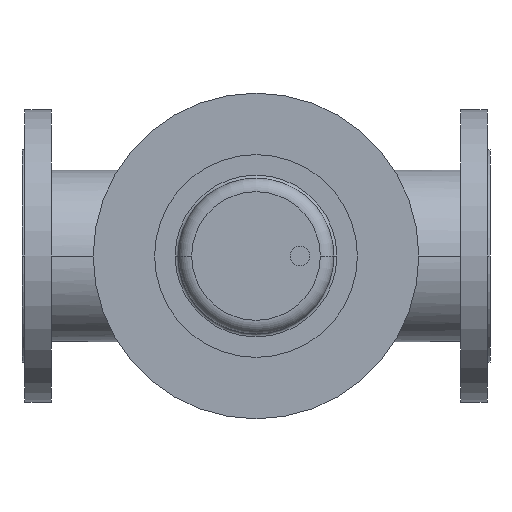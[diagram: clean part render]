
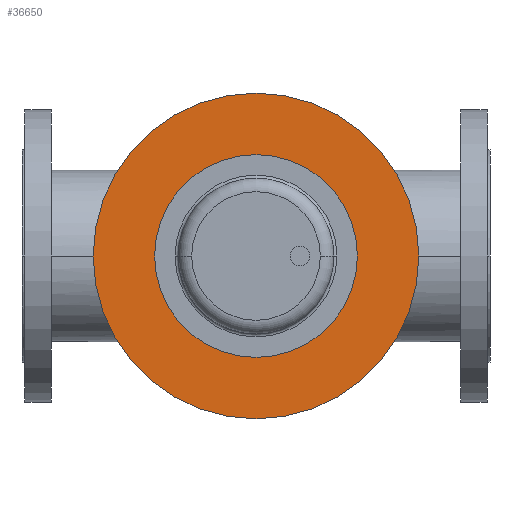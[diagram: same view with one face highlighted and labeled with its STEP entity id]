
A CAD part, front view. The second image highlights one B-rep face of the part: STEP entity #36650.
In plain terms, the highlighted planar face has unit normal (0, -1, 0).
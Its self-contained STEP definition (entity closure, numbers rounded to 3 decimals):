
#18430=CARTESIAN_POINT('',(240.,-497.52,0.));
#18440=DIRECTION('',(-0.,-1.,0.));
#18450=DIRECTION('',(1.,0.,0.));
#18460=AXIS2_PLACEMENT_3D('',#18430,#18440,#18450);
#18470=CYLINDRICAL_SURFACE('',#18460,167.);
#18540=CARTESIAN_POINT('',(407.,-505.02,0.));
#18550=VERTEX_POINT('',#18540);
#18560=CARTESIAN_POINT('',(240.,-497.52,0.));
#18570=DIRECTION('',(-0.,-1.,0.));
#18580=DIRECTION('',(1.,0.,0.));
#18590=AXIS2_PLACEMENT_3D('',#18560,#18570,#18580);
#18600=CYLINDRICAL_SURFACE('',#18590,167.);
#18640=CARTESIAN_POINT('',(240.,-505.02,0.));
#18650=DIRECTION('',(0.,1.,0.));
#18660=DIRECTION('',(1.,0.,0.));
#18670=AXIS2_PLACEMENT_3D('',#18640,#18650,#18660);
#18680=CIRCLE('',#18670,167.);
#18690=CARTESIAN_POINT('',(73.,-505.02,0.));
#18700=VERTEX_POINT('',#18690);
#18710=CARTESIAN_POINT('',(343.5,-505.02,0.));
#18720=DIRECTION('',(0.,-1.,0.));
#18730=DIRECTION('',(-1.,0.,0.));
#18740=AXIS2_PLACEMENT_3D('',#18710,#18720,#18730);
#18750=PLANE('',#18740);
#18760=SURFACE_CURVE('',#18680,(#18750,#18470),.CURVE_3D.);
#18770=EDGE_CURVE('',#18700,#18550,#18760,.T.);
#19040=CARTESIAN_POINT('',(240.,-505.52,0.));
#19050=DIRECTION('',(-0.,-1.,0.));
#19060=DIRECTION('',(1.,0.,0.));
#19070=AXIS2_PLACEMENT_3D('',#19040,#19050,#19060);
#19080=CYLINDRICAL_SURFACE('',#19070,40.);
#19130=CARTESIAN_POINT('',(200.,-505.02,0.));
#19140=VERTEX_POINT('',#19130);
#19170=CARTESIAN_POINT('',(240.,-505.52,0.));
#19180=DIRECTION('',(-0.,-1.,0.));
#19190=DIRECTION('',(1.,0.,0.));
#19200=AXIS2_PLACEMENT_3D('',#19170,#19180,#19190);
#19210=CYLINDRICAL_SURFACE('',#19200,40.);
#19440=CARTESIAN_POINT('',(280.,-505.02,0.));
#19450=VERTEX_POINT('',#19440);
#19490=CARTESIAN_POINT('',(240.,-505.02,0.));
#19500=DIRECTION('',(0.,1.,0.));
#19510=DIRECTION('',(1.,0.,0.));
#19520=AXIS2_PLACEMENT_3D('',#19490,#19500,#19510);
#19530=CIRCLE('',#19520,40.);
#19540=SURFACE_CURVE('',#19530,(#19080,#18750),.CURVE_3D.);
#19550=EDGE_CURVE('',#19450,#19140,#19540,.T.);
#36530=SURFACE_CURVE('',#18680,(#18750,#18600),.CURVE_3D.);
#36540=EDGE_CURVE('',#18550,#18700,#36530,.T.);
#36550=ORIENTED_EDGE('',*,*,#36540,.F.);
#36560=ORIENTED_EDGE('',*,*,#18770,.F.);
#36570=EDGE_LOOP('',(#36560,#36550));
#36580=FACE_OUTER_BOUND('',#36570,.T.);
#36590=SURFACE_CURVE('',#19530,(#19210,#18750),.CURVE_3D.);
#36600=EDGE_CURVE('',#19140,#19450,#36590,.T.);
#36610=ORIENTED_EDGE('',*,*,#36600,.T.);
#36620=ORIENTED_EDGE('',*,*,#19550,.T.);
#36630=EDGE_LOOP('',(#36620,#36610));
#36640=FACE_BOUND('',#36630,.T.);
#36650=ADVANCED_FACE('',(#36580,#36640),#18750,.T.);
